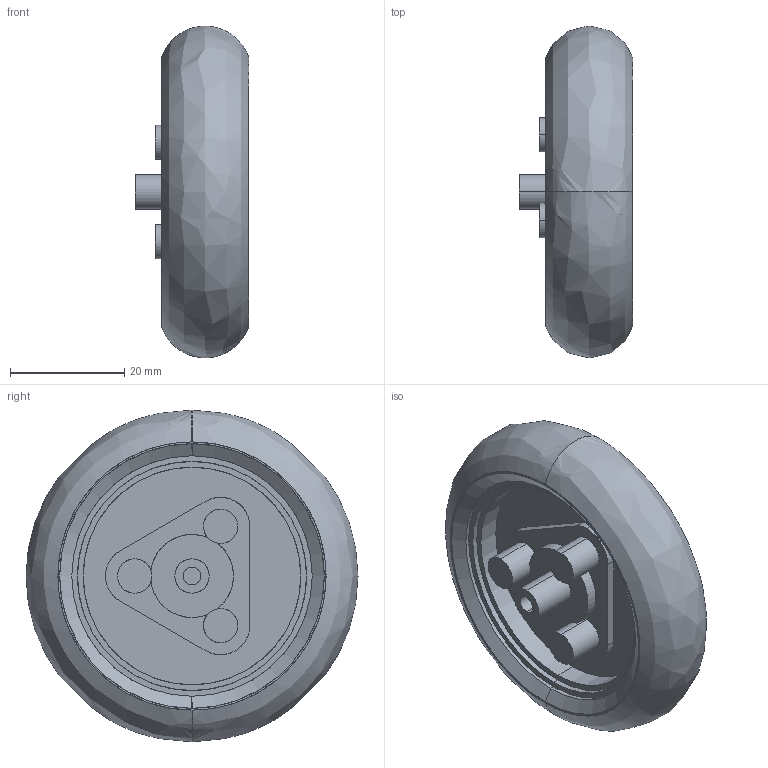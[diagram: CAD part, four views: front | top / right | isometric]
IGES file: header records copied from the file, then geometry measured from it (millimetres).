
Start section: SolidWorks IGES file using analytic representation for surfaces
Global section: file name: C:\Users\AndreBernot\Downloads\K-RACER-L_3D_SW\K-RACER-L_3D_SW\TAM-Roue_70145.IGS; native system: SolidWorks 2015; preprocessor: SolidWorks 2015; author: AndreBernot; date: 170922.151801; units: millimetre
Bounding box: 19.87 x 58 x 57.94 mm (x, y, z)
Surface area: 13736.3 mm2 (no closed solid volume)
Topology: 0 solids, 0 shells, 168 faces, 3154 edges, 3154 vertices
Faces by surface type: bspline 88, revolution 80
